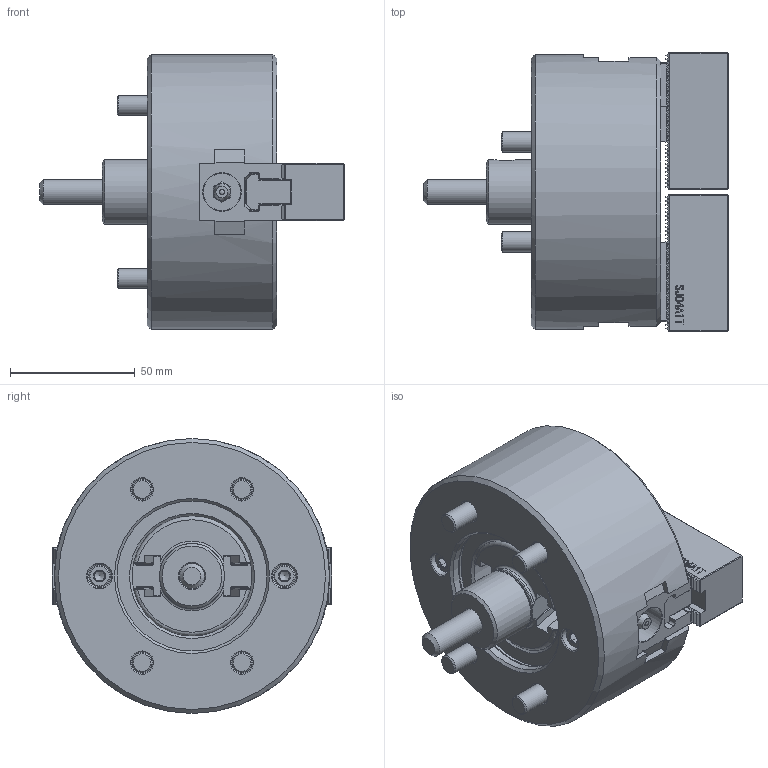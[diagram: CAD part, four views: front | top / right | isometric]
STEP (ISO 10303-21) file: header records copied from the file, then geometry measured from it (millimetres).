
FILE_DESCRIPTION (( 'STEP AP214' ), '1' );
FILE_NAME ('DT1_NT04_OUTSIDE_VIEW_OC.STEP', '2024-05-14T00:35:06', ( '' ), ( '' ), 'SwSTEP 2.0', 'SolidWorks 2022', '' );
FILE_SCHEMA (( 'AUTOMOTIVE_DESIGN' ));
Length unit declared in the file: millimetre
Products named in the file (10): DT1_NT04_M8x22^DT1_NT04_ﾃﾞﾌｫﾙﾄ; DT1_NT04_BASE^DT1_NT04_ﾃﾞﾌｫﾙﾄ; DT1_NT04_OUTSIDE_VIEW_OC; DT1_NT04_DN^DT1_NT04_ﾃﾞﾌｫﾙﾄ; DT1_NT04_M8x55^DT1_NT04_ﾃﾞﾌｫﾙﾄ; DT1_NT04_TNUT^DT1_NT04_ﾃﾞﾌｫﾙﾄ; DT1_NT04_SOFTJAW^DT1_NT04_ﾃﾞﾌｫﾙﾄ; DT1_NT04_DRAWSCREW^DT1_NT04_ﾃﾞﾌｫﾙﾄ; DT1_NT04_COVER^DT1_NT04_ﾃﾞﾌｫﾙﾄ; DT1_NT04_M3x8^DT1_NT04_ﾃﾞﾌｫﾙﾄ
Assembly tree (20 placements, depth 2):
  DT1_NT04_OUTSIDE_VIEW_OC
    DT1_NT04_SOFTJAW^DT1_NT04_ﾃﾞﾌｫﾙﾄ  x2
    DT1_NT04_TNUT^DT1_NT04_ﾃﾞﾌｫﾙﾄ  x2
    DT1_NT04_COVER^DT1_NT04_ﾃﾞﾌｫﾙﾄ
    DT1_NT04_DRAWSCREW^DT1_NT04_ﾃﾞﾌｫﾙﾄ
    DT1_NT04_DN^DT1_NT04_ﾃﾞﾌｫﾙﾄ
    DT1_NT04_BASE^DT1_NT04_ﾃﾞﾌｫﾙﾄ
    DT1_NT04_M8x22^DT1_NT04_ﾃﾞﾌｫﾙﾄ  x4
    DT1_NT04_M8x55^DT1_NT04_ﾃﾞﾌｫﾙﾄ  x4
    DT1_NT04_M3x8^DT1_NT04_ﾃﾞﾌｫﾙﾄ  x4
Bounding box: 122 x 111.72 x 110 mm (x, y, z)
Volume: 526509.6 mm3; surface area: 106810.9 mm2
Topology: 20 solids, 22 shells, 2556 faces, 7154 edges, 4696 vertices
Faces by surface type: plane 1798, cylinder 427, bspline 170, cone 134, torus 25, sphere 2
Full cylindrical faces by diameter (mm): 2 x2, 2.5 x4, 2.693 x4, 3 x4, 3.2 x4, 5 x2, 6 x4, 6.3 x4, 6.8 x4, 7 x1, 8 x8, 8.5 x9, 8.72 x2, 9.5 x2, 10 x2, 11 x1, 13.27 x8, 13.5 x4, 14 x5, 14.5 x1, 14.6 x1, 15 x2, 26 x1, 60 x1, 61 x1, 110 x1
Entity records: 67090 total; most frequent: CARTESIAN_POINT 19274, ORIENTED_EDGE 10508, DIRECTION 8564, EDGE_CURVE 5254, LINE 4016, VECTOR 4016, VERTEX_POINT 3521, AXIS2_PLACEMENT_3D 2274
